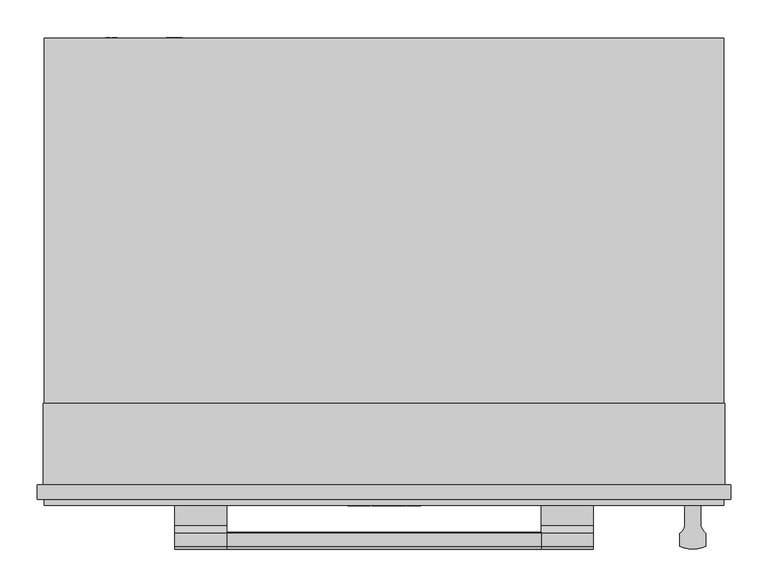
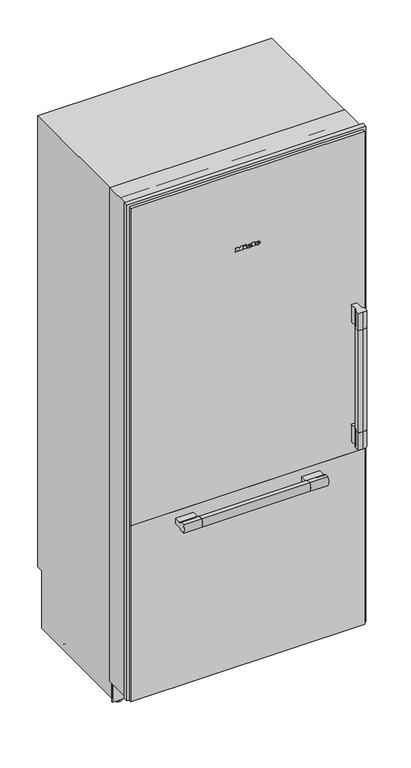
"""IFC4 building model written with IfcOpenShell, lengths in millimetres: proxy geometry, 11502970_USA_KF2912SF : 38291211_USA_11502970_KF2912SF."""

from ifc_helpers import new_model, si_unit, point, frame, frame_2d, origin, place, context, project, spatial, polyline, circle_curve, ellipse_curve, trimmed, segment, composite_curve, outline, extrude, faceted_brep, source, transform, mapped, element, save
from ifc_brep_helpers import plane_surface, cylinder_surface, revolved_surface, extruded_surface, advanced_brep


def specialty_equipment_9384840f(model_context):
    return source(origin(), model_context, "Body", "SolidModel", [
        extrude(outline(polyline([(247.0, -94.0), (205.0, -94.0), (205.0, -79.5), (90.0, -79.5), (90.0, -66.5), (205.0, -66.5), (205.0, -52.0), (247.0, -52.0), (247.0, -94.0)])), frame((0.0, 21.0, 0.0), z_axis=(0.0, 1.0, 0.0), x_axis=(0.0, 0.0, 1.0)), (0.0, 0.0, 1.0), 54.0),
        extrude(outline(polyline([(-443.0, 68.0), (443.0, 68.0), (443.0, 21.0), (-443.0, 21.0), (-443.0, 68.0)])), frame((0.0, 0.0, 883.0), z_axis=(0.0, 0.0, 1.0), x_axis=(1.0, 0.0, 0.0)), (0.0, 0.0, 1.0), 1153.0),
        extrude(outline(polyline([(-449.5, 68.0), (449.5, 68.0), (449.5, 21.0), (-449.5, 21.0), (-449.5, 68.0)])), frame((0.0, 0.0, 247.0), z_axis=(0.0, 0.0, 1.0), x_axis=(1.0, 0.0, 0.0)), (0.0, 0.0, 1.0), 562.0),
        extrude(outline(polyline([(-289.0, 50.0), (289.0, 50.0), (289.0, 21.0), (-289.0, 21.0), (-289.0, 50.0)])), frame((0.0, 0.0, 2036.0), z_axis=(0.0, 0.0, 1.0), x_axis=(1.0, 0.0, 0.0)), (0.0, 0.0, 1.0), 56.0),
        extrude(outline(composite_curve([segment(trimmed(circle_curve(frame_2d((386.9285714, -24.4390599)), 15.5714286), [point((395.5, -37.4390599))], [point((402.5, -24.4390599))], True, "CARTESIAN"), True, "CONTINUOUS"), segment(polyline([(402.5, -24.4390599), (402.5, 0.0), (423.5, 0.0), (423.5, -24.4390599)]), True, "CONTINUOUS"), segment(trimmed(circle_curve(frame_2d((439.0714286, -24.4390599)), 15.5714286), [point((423.5, -24.4390599))], [point((430.5, -37.4390599))], True, "CARTESIAN"), True, "CONTINUOUS"), segment(polyline([(430.5, -37.4390599), (430.5, -55.0)]), True, "CONTINUOUS"), segment(trimmed(circle_curve(frame_2d((413.0, -18.71875)), 40.28125), [point((430.5, -55.0))], [point((413.0, -59.0))], False, "CARTESIAN"), True, "CONTINUOUS"), segment(trimmed(circle_curve(frame_2d((413.0, -18.71875)), 40.28125), [point((413.0, -59.0))], [point((395.5, -55.0))], False, "CARTESIAN"), True, "CONTINUOUS"), segment(polyline([(395.5, -55.0), (395.5, -37.4390599)]), True, "CONTINUOUS")], self_intersect=False)), frame((0.0, 0.0, 858.0), z_axis=(0.0, 0.0, 1.0), x_axis=(1.0, 0.0, 0.0)), (0.0, 0.0, 1.0), 70.0),
        extrude(outline(composite_curve([segment(trimmed(circle_curve(frame_2d((386.9285714, -24.4390599)), 15.5714286), [point((395.5, -37.4390599))], [point((402.5, -24.4390599))], True, "CARTESIAN"), True, "CONTINUOUS"), segment(polyline([(402.5, -24.4390599), (402.5, 0.0), (423.5, 0.0), (423.5, -24.4390599)]), True, "CONTINUOUS"), segment(trimmed(circle_curve(frame_2d((439.0714286, -24.4390599)), 15.5714286), [point((423.5, -24.4390599))], [point((430.5, -37.4390599))], True, "CARTESIAN"), True, "CONTINUOUS"), segment(polyline([(430.5, -37.4390599), (430.5, -55.0)]), True, "CONTINUOUS"), segment(trimmed(circle_curve(frame_2d((413.0, -18.71875)), 40.28125), [point((430.5, -55.0))], [point((413.0, -59.0))], False, "CARTESIAN"), True, "CONTINUOUS"), segment(trimmed(circle_curve(frame_2d((413.0, -18.71875)), 40.28125), [point((413.0, -59.0))], [point((395.5, -55.0))], False, "CARTESIAN"), True, "CONTINUOUS"), segment(polyline([(395.5, -55.0), (395.5, -37.4390599)]), True, "CONTINUOUS")], self_intersect=False)), frame((0.0, 0.0, 1348.0), z_axis=(0.0, 0.0, 1.0), x_axis=(1.0, 0.0, 0.0)), (0.0, 0.0, 1.0), 70.0),
        extrude(outline(polyline([(-454.0, 21.0), (454.0, 21.0), (454.0, 0.0), (-454.0, 0.0), (-454.0, 21.0)])), frame((0.0, 0.0, 812.0), z_axis=(0.0, 0.0, 1.0), x_axis=(1.0, 0.0, 0.0)), (0.0, 0.0, 1.0), 1299.0),
        extrude(outline(composite_curve([segment(trimmed(circle_curve(frame_2d((386.9285714, -24.4390599)), 15.5714286), [point((395.5, -37.4390599))], [point((397.3599688, -36.0))], True, "CARTESIAN"), True, "CONTINUOUS"), segment(polyline([(397.3599688, -36.0), (428.6400312, -36.0)]), True, "CONTINUOUS"), segment(trimmed(circle_curve(frame_2d((439.0714286, -24.4390599)), 15.5714286), [point((428.6400312, -36.0))], [point((430.5, -37.4390599))], True, "CARTESIAN"), True, "CONTINUOUS"), segment(polyline([(430.5, -37.4390599), (430.5, -55.0)]), True, "CONTINUOUS"), segment(trimmed(circle_curve(frame_2d((413.0, -18.71875)), 40.28125), [point((430.5, -55.0))], [point((413.0, -59.0))], False, "CARTESIAN"), True, "CONTINUOUS"), segment(trimmed(circle_curve(frame_2d((413.0, -18.71875)), 40.28125), [point((413.0, -59.0))], [point((395.5, -55.0))], False, "CARTESIAN"), True, "CONTINUOUS"), segment(polyline([(395.5, -55.0), (395.5, -37.4390599)]), True, "CONTINUOUS")], self_intersect=False)), frame((0.0, 0.0, 928.0), z_axis=(0.0, 0.0, 1.0), x_axis=(1.0, 0.0, 0.0)), (0.0, 0.0, 1.0), 420.0),
        advanced_brep(
        [(-210.0, -37.692095, 787.5), (-210.0, -55.0, 787.5), (-210.0, -59.0, 770.0), (-210.0, -55.0, 752.5), (-210.0, -37.692095, 752.5), (-210.0, -27.0, 759.5), (-210.0, 0.0, 759.5), (-210.0, 0.0, 780.5), (-210.0, -27.0, 780.5), (-280.0, 0.0, 780.5), (-280.0, 0.0, 759.5), (-280.0, -27.0, 759.5), (-280.0, -37.692095, 752.5), (-280.0, -55.0, 752.5), (-280.0, -59.0, 770.0), (-280.0, -55.0, 787.5), (-280.0, -37.692095, 787.5), (-280.0, -27.0, 780.5)],
        [
            (0, 1),
            (1, 2, circle_curve(frame((-210.0, -18.71875, 770.0), z_axis=(1.0, 0.0, 0.0), x_axis=(0.0, 0.0, 1.0)), 40.28125)),
            (2, 3, circle_curve(frame((-210.0, -18.71875, 770.0), z_axis=(1.0, 0.0, 0.0), x_axis=(0.0, 0.0, 1.0)), 40.28125)),
            (3, 4),
            (4, 5, circle_curve(frame((-210.0, -27.0, 747.8342217), z_axis=(-1.0, 0.0, 0.0), x_axis=(0.0, 0.0, 1.0)), 11.6657783)),
            (5, 6),
            (6, 7),
            (7, 8),
            (8, 0, circle_curve(frame((-210.0, -27.0, 792.1657783), z_axis=(-1.0, 0.0, 0.0), x_axis=(0.0, 0.0, 1.0)), 11.6657783)),
            (9, 10),
            (10, 11),
            (11, 12, circle_curve(frame((-280.0, -27.0, 747.8342217), z_axis=(1.0, 0.0, 0.0), x_axis=(0.0, 0.0, 1.0)), 11.6657783)),
            (12, 13),
            (13, 14, circle_curve(frame((-280.0, -18.71875, 770.0), z_axis=(-1.0, 0.0, 0.0), x_axis=(0.0, 0.0, 1.0)), 40.28125)),
            (14, 15, circle_curve(frame((-280.0, -18.71875, 770.0), z_axis=(-1.0, 0.0, 0.0), x_axis=(0.0, 0.0, 1.0)), 40.28125)),
            (15, 16),
            (16, 17, circle_curve(frame((-280.0, -27.0, 792.1657783), z_axis=(1.0, 0.0, 0.0), x_axis=(0.0, 0.0, 1.0)), 11.6657783)),
            (17, 9),
            (0, 16),
            (15, 1),
            (3, 13),
            (12, 4),
            (6, 10),
            (9, 7),
            (17, 8),
            (5, 11),
        ],
        [
            plane_surface(frame((-210.0, -59.0, 787.5), z_axis=(1.0, 0.0, 0.0), x_axis=(0.0, -1.0, 0.0))),
            plane_surface(frame((-280.0, -59.0, 787.5), z_axis=(-1.0, 0.0, 0.0), x_axis=(0.0, 1.0, 0.0))),
            plane_surface(frame((-210.0, 0.0, 787.5), z_axis=(0.0, 0.0, 1.0), x_axis=(-1.0, 0.0, 0.0))),
            plane_surface(frame((-210.0, -59.0, 752.5), z_axis=(0.0, 0.0, -1.0), x_axis=(-1.0, 0.0, 0.0))),
            plane_surface(frame((-210.0, 0.0, 752.5), z_axis=(0.0, 1.0, 0.0), x_axis=(-1.0, 0.0, 0.0))),
            plane_surface(frame((280.0, -27.0, 780.5), z_axis=(0.0, 0.0, 1.0), x_axis=(-1.0, 0.0, 0.0))),
            plane_surface(frame((280.0, 0.0, 759.5), z_axis=(0.0, 0.0, -1.0), x_axis=(-1.0, 0.0, 0.0))),
            revolved_surface(polyline([(-210.0, -27.0, 759.5), (-280.0, -27.0, 759.5)]), (-280.0, -27.0, 747.8342217), (1.0, 0.0, 0.0)),
            cylinder_surface(frame((-280.0, -18.71875, 770.0), z_axis=(-1.0, 0.0, 0.0), x_axis=(0.0, 0.0, 1.0)), 40.28125),
            revolved_surface(polyline([(-210.0, -27.0, 803.8315566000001), (-280.0, -27.0, 803.8315566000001)]), (-280.0, -27.0, 792.1657783), (1.0, 0.0, 0.0)),
        ],
        [
            (0, [[1, 2, 3, 4, 5, 6, 7, 8, 9]]),
            (1, [[10, 11, 12, 13, 14, 15, 16, 17, 18]]),
            (2, [[-1, 19, -16, 20]]),
            (3, [[-4, 21, -13, 22]]),
            (4, [[-7, 23, -10, 24]]),
            (5, [[25, -8, -24, -18]]),
            (6, [[26, -11, -23, -6]]),
            (7, [[-26, -5, -22, -12]]),
            (8, [[-2, -20, -15, -14, -21, -3]]),
            (9, [[-25, -17, -19, -9]]),
        ],
    ),
        advanced_brep(
        [(210.0, -37.692095, 787.5), (210.0, -55.0, 787.5), (210.0, -59.0, 770.0), (210.0, -55.0, 752.5), (210.0, -37.692095, 752.5), (210.0, -36.0, 755.2565113), (210.0, -36.0, 784.7434887), (-210.0, -37.692095, 752.5), (-210.0, -55.0, 752.5), (-210.0, -59.0, 770.0), (-210.0, -55.0, 787.5), (-210.0, -37.692095, 787.5), (-210.0, -36.0, 784.7434887), (-210.0, -36.0, 755.2565113)],
        [
            (0, 1),
            (1, 2, circle_curve(frame((210.0, -18.71875, 770.0), z_axis=(1.0, 0.0, 0.0), x_axis=(0.0, 0.0, 1.0)), 40.28125)),
            (2, 3, circle_curve(frame((210.0, -18.71875, 770.0), z_axis=(1.0, 0.0, 0.0), x_axis=(0.0, 0.0, 1.0)), 40.28125)),
            (3, 4),
            (4, 5, circle_curve(frame((210.0, -27.0, 747.8342217), z_axis=(-1.0, 0.0, 0.0), x_axis=(0.0, 0.0, 1.0)), 11.6657783)),
            (5, 6),
            (6, 0, circle_curve(frame((210.0, -27.0, 792.1657783), z_axis=(-1.0, 0.0, 0.0), x_axis=(0.0, 0.0, 1.0)), 11.6657783)),
            (7, 8),
            (8, 9, circle_curve(frame((-210.0, -18.71875, 770.0), z_axis=(-1.0, 0.0, 0.0), x_axis=(0.0, 0.0, 1.0)), 40.28125)),
            (9, 10, circle_curve(frame((-210.0, -18.71875, 770.0), z_axis=(-1.0, 0.0, 0.0), x_axis=(0.0, 0.0, 1.0)), 40.28125)),
            (10, 11),
            (11, 12, circle_curve(frame((-210.0, -27.0, 792.1657783), z_axis=(1.0, 0.0, 0.0), x_axis=(0.0, 0.0, 1.0)), 11.6657783)),
            (12, 13),
            (13, 7, circle_curve(frame((-210.0, -27.0, 747.8342217), z_axis=(1.0, 0.0, 0.0), x_axis=(0.0, 0.0, 1.0)), 11.6657783)),
            (0, 11),
            (10, 1),
            (3, 8),
            (7, 4),
            (13, 5),
            (6, 12),
        ],
        [
            plane_surface(frame((210.0, -59.0, 787.5), z_axis=(1.0, 0.0, 0.0), x_axis=(0.0, -1.0, 0.0))),
            plane_surface(frame((-210.0, -59.0, 787.5), z_axis=(-1.0, 0.0, 0.0), x_axis=(0.0, 1.0, 0.0))),
            plane_surface(frame((210.0, 0.0, 787.5), z_axis=(0.0, 0.0, 1.0), x_axis=(-1.0, 0.0, 0.0))),
            plane_surface(frame((210.0, -59.0, 752.5), z_axis=(0.0, 0.0, -1.0), x_axis=(-1.0, 0.0, 0.0))),
            revolved_surface(polyline([(210.0, -27.0, 759.5), (-210.0, -27.0, 759.5)]), (-280.0, -27.0, 747.8342217), (1.0, 0.0, 0.0)),
            cylinder_surface(frame((-280.0, -18.71875, 770.0), z_axis=(-1.0, 0.0, 0.0), x_axis=(0.0, 0.0, 1.0)), 40.28125),
            revolved_surface(polyline([(210.0, -27.0, 803.8315566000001), (-210.0, -27.0, 803.8315566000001)]), (-280.0, -27.0, 792.1657783), (1.0, 0.0, 0.0)),
            plane_surface(frame((210.0, -36.0, 788.0), z_axis=(0.0, 1.0, 0.0), x_axis=(-1.0, 0.0, 0.0))),
        ],
        [
            (0, [[1, 2, 3, 4, 5, 6, 7]]),
            (1, [[8, 9, 10, 11, 12, 13, 14]]),
            (2, [[-1, 15, -11, 16]]),
            (3, [[-4, 17, -8, 18]]),
            (4, [[-18, -14, 19, -5]]),
            (5, [[-2, -16, -10, -9, -17, -3]]),
            (6, [[-15, -7, 20, -12]]),
            (7, [[-6, -19, -13, -20]]),
        ],
    ),
        advanced_brep(
        [(280.0, -37.692095, 787.5), (280.0, -55.0, 787.5), (280.0, -59.0, 770.0), (280.0, -55.0, 752.5), (280.0, -37.692095, 752.5), (280.0, -27.0, 759.5), (280.0, 0.0, 759.5), (280.0, 0.0, 780.5), (280.0, -27.0, 780.5), (210.0, 0.0, 780.5), (210.0, 0.0, 759.5), (210.0, -27.0, 759.5), (210.0, -37.692095, 752.5), (210.0, -55.0, 752.5), (210.0, -59.0, 770.0), (210.0, -55.0, 787.5), (210.0, -37.692095, 787.5), (210.0, -27.0, 780.5)],
        [
            (0, 1),
            (1, 2, circle_curve(frame((280.0, -18.71875, 770.0), z_axis=(1.0, 0.0, 0.0), x_axis=(0.0, 0.0, 1.0)), 40.28125)),
            (2, 3, circle_curve(frame((280.0, -18.71875, 770.0), z_axis=(1.0, 0.0, 0.0), x_axis=(0.0, 0.0, 1.0)), 40.28125)),
            (3, 4),
            (4, 5, circle_curve(frame((280.0, -27.0, 747.8342217), z_axis=(-1.0, 0.0, 0.0), x_axis=(0.0, 0.0, 1.0)), 11.6657783)),
            (5, 6),
            (6, 7),
            (7, 8),
            (8, 0, circle_curve(frame((280.0, -27.0, 792.1657783), z_axis=(-1.0, 0.0, 0.0), x_axis=(0.0, 0.0, 1.0)), 11.6657783)),
            (9, 10),
            (10, 11),
            (11, 12, circle_curve(frame((210.0, -27.0, 747.8342217), z_axis=(1.0, 0.0, 0.0), x_axis=(0.0, 0.0, 1.0)), 11.6657783)),
            (12, 13),
            (13, 14, circle_curve(frame((210.0, -18.71875, 770.0), z_axis=(-1.0, 0.0, 0.0), x_axis=(0.0, 0.0, 1.0)), 40.28125)),
            (14, 15, circle_curve(frame((210.0, -18.71875, 770.0), z_axis=(-1.0, 0.0, 0.0), x_axis=(0.0, 0.0, 1.0)), 40.28125)),
            (15, 16),
            (16, 17, circle_curve(frame((210.0, -27.0, 792.1657783), z_axis=(1.0, 0.0, 0.0), x_axis=(0.0, 0.0, 1.0)), 11.6657783)),
            (17, 9),
            (0, 16),
            (15, 1),
            (3, 13),
            (12, 4),
            (6, 10),
            (9, 7),
            (17, 8),
            (5, 11),
        ],
        [
            plane_surface(frame((280.0, -59.0, 787.5), z_axis=(1.0, 0.0, 0.0), x_axis=(0.0, -1.0, 0.0))),
            plane_surface(frame((210.0, -59.0, 787.5), z_axis=(-1.0, 0.0, 0.0), x_axis=(0.0, 1.0, 0.0))),
            plane_surface(frame((280.0, 0.0, 787.5), z_axis=(0.0, 0.0, 1.0), x_axis=(-1.0, 0.0, 0.0))),
            plane_surface(frame((280.0, -59.0, 752.5), z_axis=(0.0, 0.0, -1.0), x_axis=(-1.0, 0.0, 0.0))),
            plane_surface(frame((280.0, 0.0, 752.5), z_axis=(0.0, 1.0, 0.0), x_axis=(-1.0, 0.0, 0.0))),
            plane_surface(frame((280.0, -27.0, 780.5), z_axis=(0.0, 0.0, 1.0), x_axis=(-1.0, 0.0, 0.0))),
            plane_surface(frame((280.0, 0.0, 759.5), z_axis=(0.0, 0.0, -1.0), x_axis=(-1.0, 0.0, 0.0))),
            revolved_surface(polyline([(280.0, -27.0, 759.5), (210.0, -27.0, 759.5)]), (-280.0, -27.0, 747.8342217), (1.0, 0.0, 0.0)),
            cylinder_surface(frame((-280.0, -18.71875, 770.0), z_axis=(-1.0, 0.0, 0.0), x_axis=(0.0, 0.0, 1.0)), 40.28125),
            revolved_surface(polyline([(280.0, -27.0, 803.8315566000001), (210.0, -27.0, 803.8315566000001)]), (-280.0, -27.0, 792.1657783), (1.0, 0.0, 0.0)),
        ],
        [
            (0, [[1, 2, 3, 4, 5, 6, 7, 8, 9]]),
            (1, [[10, 11, 12, 13, 14, 15, 16, 17, 18]]),
            (2, [[-1, 19, -16, 20]]),
            (3, [[-4, 21, -13, 22]]),
            (4, [[-7, 23, -10, 24]]),
            (5, [[25, -8, -24, -18]]),
            (6, [[26, -11, -23, -6]]),
            (7, [[-26, -5, -22, -12]]),
            (8, [[-2, -20, -15, -14, -21, -3]]),
            (9, [[-25, -17, -19, -9]]),
        ],
    ),
        extrude(outline(polyline([(-454.0, 21.0), (454.0, 21.0), (454.0, 0.0), (-454.0, 0.0), (-454.0, 21.0)])), frame((0.0, 0.0, 90.0), z_axis=(0.0, 0.0, 1.0), x_axis=(1.0, 0.0, 0.0)), (0.0, 0.0, 1.0), 721.0),
        advanced_brep(
        [(38.22, -1.0, 1795.792), (38.22, -1.0, 1797.408), (48.924, -1.0, 1797.408), (30.3, -1.0, 1797.408), (34.7, -1.0, 1792.0), (48.652, -1.0, 1795.792), (43.82, -1.0, 1795.792), (40.012, -1.0, 1794.0), (38.22, -1.0, 1799.456), (38.22, -1.0, 1801.2), (40.956, -1.0, 1801.2), (40.956, -1.0, 1799.456), (38.22, 0.0, 1795.792), (40.012, 0.0, 1794.0), (43.82, 0.0, 1795.792), (48.652, 0.0, 1795.792), (34.7, 0.0, 1792.0), (30.3, 0.0, 1797.408), (48.924, 0.0, 1797.408), (38.22, 0.0, 1797.408), (38.22, 0.0, 1799.456), (40.956, 0.0, 1799.456), (40.956, 0.0, 1801.2), (38.22, 0.0, 1801.2)],
        [
            (0, 1),
            (1, 2),
            (2, 3, ellipse_curve(frame((39.612, -1.0, 1797.408), z_axis=(0.0, -1.0, 0.0), x_axis=(-1.0, 0.0, 0.0)), 9.312, 7.696)),
            (3, 4, circle_curve(frame((36.4920873, -1.0, 1797.952), z_axis=(0.0, -1.0, 0.0), x_axis=(0.0, 0.0, -1.0)), 6.2159376)),
            (4, 5, circle_curve(frame((39.4255872, -1.0, 1802.176), z_axis=(0.0, -1.0, 0.0), x_axis=(0.0, 0.0, -1.0)), 11.2197215)),
            (5, 6),
            (6, 7, circle_curve(frame((40.7941176, -1.0, 1797.28), z_axis=(0.0, 1.0, 0.0), x_axis=(0.0, 0.0, -1.0)), 3.3719591)),
            (7, 0, circle_curve(frame((40.012, -1.0, 1795.792), z_axis=(0.0, 1.0, 0.0), x_axis=(0.0, 0.0, -1.0)), 1.792)),
            (8, 9),
            (9, 10, circle_curve(frame((39.588, -1.0, 1801.2), z_axis=(0.0, 1.0, 0.0), x_axis=(0.0, 0.0, -1.0)), 1.368)),
            (10, 11),
            (11, 8),
            (12, 13, circle_curve(frame((40.012, 0.0, 1795.792), z_axis=(0.0, -1.0, 0.0), x_axis=(0.0, 0.0, -1.0)), 1.792)),
            (13, 14, circle_curve(frame((40.7941176, 0.0, 1797.28), z_axis=(0.0, -1.0, 0.0), x_axis=(0.0, 0.0, -1.0)), 3.3719591)),
            (14, 15),
            (15, 16, circle_curve(frame((39.4255872, 0.0, 1802.176), z_axis=(0.0, 1.0, 0.0), x_axis=(0.0, 0.0, -1.0)), 11.2197215)),
            (16, 17, circle_curve(frame((36.4920873, 0.0, 1797.952), z_axis=(0.0, 1.0, 0.0), x_axis=(0.0, 0.0, -1.0)), 6.2159376)),
            (17, 18, ellipse_curve(frame((39.612, 0.0, 1797.408), z_axis=(0.0, 1.0, 0.0), x_axis=(-1.0, 0.0, 0.0)), 9.312, 7.696)),
            (18, 19),
            (19, 12),
            (20, 21),
            (21, 22),
            (22, 23, circle_curve(frame((39.588, 0.0, 1801.2), z_axis=(0.0, -1.0, 0.0), x_axis=(0.0, 0.0, -1.0)), 1.368)),
            (23, 20),
            (0, 12),
            (19, 1),
            (18, 2),
            (5, 15),
            (14, 6),
            (17, 3),
            (13, 7),
            (16, 4),
            (8, 20),
            (23, 9),
            (22, 10),
            (21, 11),
        ],
        [
            plane_surface(frame((38.22, -1.0, 1797.408), z_axis=(0.0, -1.0, 0.0), x_axis=(0.0, 0.0, 1.0))),
            plane_surface(frame((38.22, 0.0, 1797.408), z_axis=(0.0, 1.0, 0.0), x_axis=(0.0, 0.0, -1.0))),
            plane_surface(frame((38.22, -1.0, 1795.792), z_axis=(1.0, 0.0, 0.0), x_axis=(0.0, 1.0, 0.0))),
            plane_surface(frame((38.22, -1.0, 1797.408), z_axis=(0.0, 0.0, -1.0), x_axis=(0.0, 1.0, 0.0))),
            plane_surface(frame((48.652, -1.0, 1795.792), z_axis=(0.0, 0.0, 1.0), x_axis=(0.0, 1.0, 0.0))),
            extruded_surface(trimmed(ellipse_curve(frame((39.612, 1.0, 1797.408), z_axis=(0.0, -1.0, 0.0), x_axis=(-1.0, 0.0, 0.0)), 9.312, 7.696), [point((48.924, 1.0, 1797.408))], [point((30.3, 1.0, 1797.408))], True, "CARTESIAN"), (0.0, -1.0, 0.0), 1.0),
            revolved_surface(polyline([(40.7941176, 0.0, 1793.9080409), (40.7941176, -1.0, 1793.9080409)]), (40.7941176, 0.0, 1797.28), (0.0, 1.0, 0.0)),
            revolved_surface(polyline([(40.012, 0.0, 1794.0), (40.012, -1.0, 1794.0)]), (40.012, 0.0, 1795.792), (0.0, 1.0, 0.0)),
            cylinder_surface(frame((36.4920873, 0.0, 1797.952), z_axis=(0.0, -1.0, 0.0), x_axis=(0.0, 0.0, -1.0)), 6.2159376),
            cylinder_surface(frame((39.4255872, 0.0, 1802.176), z_axis=(0.0, -1.0, 0.0), x_axis=(0.0, 0.0, -1.0)), 11.2197215),
            plane_surface(frame((38.22, -1.0, 1799.456), z_axis=(1.0, 0.0, 0.0), x_axis=(0.0, 1.0, 0.0))),
            revolved_surface(polyline([(39.588, 0.0, 1799.832), (39.588, -1.0, 1799.832)]), (39.588, 0.0, 1801.2), (0.0, 1.0, 0.0)),
            plane_surface(frame((40.956, -1.0, 1801.2), z_axis=(-1.0, 0.0, 0.0), x_axis=(0.0, 1.0, 0.0))),
            plane_surface(frame((40.956, -1.0, 1799.456), z_axis=(0.0, 0.0, 1.0), x_axis=(0.0, 1.0, 0.0))),
        ],
        [
            (0, [[1, 2, 3, 4, 5, 6, 7, 8], [9, 10, 11, 12]]),
            (1, [[13, 14, 15, 16, 17, 18, 19, 20], [21, 22, 23, 24]]),
            (2, [[-1, 25, -20, 26]]),
            (3, [[-2, -26, -19, 27]]),
            (4, [[-6, 28, -15, 29]]),
            (5, [[-3, -27, -18, 30]]),
            (6, [[-7, -29, -14, 31]]),
            (7, [[-8, -31, -13, -25]]),
            (8, [[-4, -30, -17, 32]]),
            (9, [[-5, -32, -16, -28]]),
            (10, [[-9, 33, -24, 34]]),
            (11, [[-10, -34, -23, 35]]),
            (12, [[-11, -35, -22, 36]]),
            (13, [[-12, -36, -21, -33]]),
        ],
    ),
        advanced_brep(
        [(4.828, -1.0, 1795.792), (4.828, -1.0, 1797.408), (15.532, -1.0, 1797.408), (-3.092, -1.0, 1797.408), (1.308, -1.0, 1792.0), (15.26, -1.0, 1795.792), (10.428, -1.0, 1795.792), (6.62, -1.0, 1794.0), (4.828, -1.0, 1799.456), (4.828, -1.0, 1801.2), (7.564, -1.0, 1801.2), (7.564, -1.0, 1799.456), (4.828, 0.0, 1795.792), (6.62, 0.0, 1794.0), (10.428, 0.0, 1795.792), (15.26, 0.0, 1795.792), (1.308, 0.0, 1792.0), (-3.092, 0.0, 1797.408), (15.532, 0.0, 1797.408), (4.828, 0.0, 1797.408), (4.828, 0.0, 1799.456), (7.564, 0.0, 1799.456), (7.564, 0.0, 1801.2), (4.828, 0.0, 1801.2)],
        [
            (0, 1),
            (1, 2),
            (2, 3, ellipse_curve(frame((6.22, -1.0, 1797.408), z_axis=(0.0, -1.0, 0.0), x_axis=(-1.0, 0.0, 0.0)), 9.312, 7.696)),
            (3, 4, circle_curve(frame((3.1000873, -1.0, 1797.952), z_axis=(0.0, -1.0, 0.0), x_axis=(0.0, 0.0, -1.0)), 6.2159376)),
            (4, 5, circle_curve(frame((6.0335872, -1.0, 1802.176), z_axis=(0.0, -1.0, 0.0), x_axis=(0.0, 0.0, -1.0)), 11.2197215)),
            (5, 6),
            (6, 7, circle_curve(frame((7.4021176, -1.0, 1797.28), z_axis=(0.0, 1.0, 0.0), x_axis=(0.0, 0.0, -1.0)), 3.3719591)),
            (7, 0, circle_curve(frame((6.62, -1.0, 1795.792), z_axis=(0.0, 1.0, 0.0), x_axis=(0.0, 0.0, -1.0)), 1.792)),
            (8, 9),
            (9, 10, circle_curve(frame((6.196, -1.0, 1801.2), z_axis=(0.0, 1.0, 0.0), x_axis=(0.0, 0.0, -1.0)), 1.368)),
            (10, 11),
            (11, 8),
            (12, 13, circle_curve(frame((6.62, 0.0, 1795.792), z_axis=(0.0, -1.0, 0.0), x_axis=(0.0, 0.0, -1.0)), 1.792)),
            (13, 14, circle_curve(frame((7.4021176, 0.0, 1797.28), z_axis=(0.0, -1.0, 0.0), x_axis=(0.0, 0.0, -1.0)), 3.3719591)),
            (14, 15),
            (15, 16, circle_curve(frame((6.0335872, 0.0, 1802.176), z_axis=(0.0, 1.0, 0.0), x_axis=(0.0, 0.0, -1.0)), 11.2197215)),
            (16, 17, circle_curve(frame((3.1000873, 0.0, 1797.952), z_axis=(0.0, 1.0, 0.0), x_axis=(0.0, 0.0, -1.0)), 6.2159376)),
            (17, 18, ellipse_curve(frame((6.22, 0.0, 1797.408), z_axis=(0.0, 1.0, 0.0), x_axis=(-1.0, 0.0, 0.0)), 9.312, 7.696)),
            (18, 19),
            (19, 12),
            (20, 21),
            (21, 22),
            (22, 23, circle_curve(frame((6.196, 0.0, 1801.2), z_axis=(0.0, -1.0, 0.0), x_axis=(0.0, 0.0, -1.0)), 1.368)),
            (23, 20),
            (0, 12),
            (19, 1),
            (18, 2),
            (5, 15),
            (14, 6),
            (17, 3),
            (13, 7),
            (16, 4),
            (8, 20),
            (23, 9),
            (22, 10),
            (21, 11),
        ],
        [
            plane_surface(frame((4.828, -1.0, 1797.408), z_axis=(0.0, -1.0, 0.0), x_axis=(0.0, 0.0, 1.0))),
            plane_surface(frame((4.828, 0.0, 1797.408), z_axis=(0.0, 1.0, 0.0), x_axis=(0.0, 0.0, -1.0))),
            plane_surface(frame((4.828, -1.0, 1795.792), z_axis=(1.0, 0.0, 0.0), x_axis=(0.0, 1.0, 0.0))),
            plane_surface(frame((4.828, -1.0, 1797.408), z_axis=(0.0, 0.0, -1.0), x_axis=(0.0, 1.0, 0.0))),
            plane_surface(frame((15.26, -1.0, 1795.792), z_axis=(0.0, 0.0, 1.0), x_axis=(0.0, 1.0, 0.0))),
            extruded_surface(trimmed(ellipse_curve(frame((6.22, 1.0, 1797.408), z_axis=(0.0, -1.0, 0.0), x_axis=(-1.0, 0.0, 0.0)), 9.312, 7.696), [point((15.532, 1.0, 1797.408))], [point((-3.092, 1.0, 1797.408))], True, "CARTESIAN"), (0.0, -1.0, 0.0), 1.0),
            revolved_surface(polyline([(7.4021176, 0.0, 1793.9080409), (7.4021176, -1.0, 1793.9080409)]), (7.4021176, 0.0, 1797.28), (0.0, 1.0, 0.0)),
            revolved_surface(polyline([(6.62, 0.0, 1794.0), (6.62, -1.0, 1794.0)]), (6.62, 0.0, 1795.792), (0.0, 1.0, 0.0)),
            cylinder_surface(frame((3.1000873, 0.0, 1797.952), z_axis=(0.0, -1.0, 0.0), x_axis=(0.0, 0.0, -1.0)), 6.2159376),
            cylinder_surface(frame((6.0335872, 0.0, 1802.176), z_axis=(0.0, -1.0, 0.0), x_axis=(0.0, 0.0, -1.0)), 11.2197215),
            plane_surface(frame((4.828, -1.0, 1799.456), z_axis=(1.0, 0.0, 0.0), x_axis=(0.0, 1.0, 0.0))),
            revolved_surface(polyline([(6.196, 0.0, 1799.832), (6.196, -1.0, 1799.832)]), (6.196, 0.0, 1801.2), (0.0, 1.0, 0.0)),
            plane_surface(frame((7.564, -1.0, 1801.2), z_axis=(-1.0, 0.0, 0.0), x_axis=(0.0, 1.0, 0.0))),
            plane_surface(frame((7.564, -1.0, 1799.456), z_axis=(0.0, 0.0, 1.0), x_axis=(0.0, 1.0, 0.0))),
        ],
        [
            (0, [[1, 2, 3, 4, 5, 6, 7, 8], [9, 10, 11, 12]]),
            (1, [[13, 14, 15, 16, 17, 18, 19, 20], [21, 22, 23, 24]]),
            (2, [[-1, 25, -20, 26]]),
            (3, [[-2, -26, -19, 27]]),
            (4, [[-6, 28, -15, 29]]),
            (5, [[-3, -27, -18, 30]]),
            (6, [[-7, -29, -14, 31]]),
            (7, [[-8, -31, -13, -25]]),
            (8, [[-4, -30, -17, 32]]),
            (9, [[-5, -32, -16, -28]]),
            (10, [[-9, 33, -24, 34]]),
            (11, [[-10, -34, -23, 35]]),
            (12, [[-11, -35, -22, 36]]),
            (13, [[-12, -36, -21, -33]]),
        ],
    ),
        extrude(outline(polyline([(1807.056, -12.66), (1804.464, -11.444), (1806.992, -6.02), (1809.584, -7.22), (1807.056, -12.66)])), frame((0.0, -1.0, 0.0), z_axis=(0.0, 1.0, 0.0), x_axis=(0.0, 0.0, 1.0)), (0.0, 0.0, 1.0), 1.0),
        extrude(outline(polyline([(1804.112, -16.612), (1801.248, -16.612), (1801.248, -14.708), (1794.688, -14.708), (1794.688, -16.612), (1792.0, -16.612), (1792.0, -3.988), (1794.688, -3.988), (1794.688, -5.844), (1804.112, -5.844), (1804.112, -16.612)])), frame((0.0, -1.0, 0.0), z_axis=(0.0, 1.0, 0.0), x_axis=(0.0, 0.0, 1.0)), (0.0, 0.0, 1.0), 1.0),
        extrude(outline(polyline([(1805.392, 16.428), (1805.392, 18.348), (1794.688, 18.348), (1794.688, 16.428), (1792.0, 16.428), (1792.0, 29.404), (1794.688, 29.404), (1794.688, 27.436), (1808.0, 27.436), (1808.0, 16.428), (1805.392, 16.428)])), frame((0.0, -1.0, 0.0), z_axis=(0.0, 1.0, 0.0), x_axis=(0.0, 0.0, 1.0)), (0.0, 0.0, 1.0), 1.0),
        extrude(outline(polyline([(1805.392, -48.5), (1805.392, -46.564), (1794.688, -46.564), (1794.688, -48.5), (1792.0, -48.5), (1792.0, -41.46), (1794.688, -41.46), (1794.688, -43.38), (1801.4431247, -43.38), (1792.0, -36.228), (1801.8152223, -29.044), (1794.688, -29.044), (1794.688, -31.012), (1792.0, -31.012), (1792.0, -18.244), (1794.688, -18.244), (1794.688, -20.276), (1805.392, -20.276), (1805.392, -18.244), (1808.0, -18.244), (1808.0, -27.988), (1802.0, -32.66), (1808.0, -37.348), (1808.0, -48.5), (1805.392, -48.5)])), frame((0.0, -1.0, 0.0), z_axis=(0.0, 1.0, 0.0), x_axis=(0.0, 0.0, 1.0)), (0.0, 0.0, 1.0), 1.0),
        extrude(outline(polyline([(201.5, 1973.4), (238.625, 1914.0), (237.4457524, 1914.0), (200.3207524, 1973.4), (201.5, 1973.4)])), frame((-69.0, 0.0, 0.0), z_axis=(1.0, 0.0, 0.0), x_axis=(0.0, 1.0, 0.0)), (0.0, 0.0, 1.0), 138.0),
        extrude(outline(polyline([(565.0, 1998.0), (565.0, 1796.0), (495.0, 1796.0), (454.0, 1907.0), (243.0, 1907.0), (198.0, 1979.0), (150.0, 1998.0), (565.0, 1998.0)])), frame((-408.0, 0.0, 0.0), z_axis=(1.0, 0.0, 0.0), x_axis=(0.0, 1.0, 0.0)), (0.0, 0.0, 1.0), 816.0),
        extrude(outline(polyline([(-408.0, 565.0), (408.0, 565.0), (408.0, 540.0), (-408.0, 540.0), (-408.0, 565.0)])), frame((0.0, 0.0, 303.0), z_axis=(0.0, 0.0, 1.0), x_axis=(1.0, 0.0, 0.0)), (0.0, 0.0, 1.0), 467.0),
        extrude(outline(polyline([(-408.0, 565.0), (408.0, 565.0), (408.0, 68.0), (-408.0, 68.0), (-408.0, 565.0)])), frame((0.0, 0.0, 770.0), z_axis=(0.0, 0.0, 1.0), x_axis=(1.0, 0.0, 0.0)), (0.0, 0.0, 1.0), 144.0),
        extrude(outline(polyline([(46.0510837, -279.101717), (37.4134902, -281.1745179), (46.0453554, -283.6868463), (46.0453554, -285.5601414), (37.4089549, -288.0799633), (46.0493903, -290.1581876), (46.0493903, -291.4649805), (36.0005458, -288.7156324), (36.0005458, -287.372208), (44.8261022, -284.6342221), (35.9987467, -282.0620509), (35.9987287, -280.5451466), (46.0510837, -277.800191), (46.0510837, -279.101717)])), frame((0.0, 625.0, 0.0), z_axis=(0.0, 1.0, 0.0), x_axis=(0.0, 0.0, 1.0)), (0.0, 0.0, 1.0), 1.0),
        extrude(outline(polyline([(46.0485238, -270.7401503), (41.1363122, -270.7401503), (46.0468162, -275.884602), (46.0468162, -277.6328316), (41.9156889, -273.3260313), (36.000035, -277.8032231), (36.000035, -276.2795519), (41.0742849, -272.4391666), (39.4525334, -270.7395503), (35.9999292, -270.7395503), (35.9999292, -269.4795491), (46.0485238, -269.4795491), (46.0485238, -270.7401503)])), frame((0.0, 625.0, 0.0), z_axis=(0.0, 1.0, 0.0), x_axis=(0.0, 0.0, 1.0)), (0.0, 0.0, 1.0), 1.0),
        extrude(outline(composite_curve([segment(trimmed(circle_curve(frame_2d((41.0, -280.0)), 7.5), [point((33.5, -280.0))], [point((48.5, -280.0))], False, "CARTESIAN"), True, "CONTINUOUS"), segment(trimmed(circle_curve(frame_2d((41.0, -280.0)), 7.5), [point((48.5, -280.0))], [point((33.5, -280.0))], False, "CARTESIAN"), True, "CONTINUOUS")], self_intersect=False)), frame((0.0, 598.0, 0.0), z_axis=(0.0, 1.0, 0.0), x_axis=(0.0, 0.0, 1.0)), (0.0, 0.0, 1.0), 27.0),
        extrude(outline(polyline([(2095.0, -447.5), (2047.0, -447.5), (2047.0, -413.5), (2036.5, -413.5), (2036.5, -298.5), (2047.0, -298.5), (2047.0, -292.5), (2095.0, -292.5), (2095.0, -447.5)])), frame((0.0, 21.0, 0.0), z_axis=(0.0, 1.0, 0.0), x_axis=(0.0, 0.0, 1.0)), (0.0, 0.0, 1.0), 47.0),
        extrude(outline(polyline([(871.0, -447.5), (823.0, -447.5), (823.0, -292.5), (871.0, -292.5), (871.0, -298.5), (881.0, -298.5), (881.0, -413.5), (871.0, -413.5), (871.0, -447.5)])), frame((0.0, 21.0, 0.0), z_axis=(0.0, 1.0, 0.0), x_axis=(0.0, 0.0, 1.0)), (0.0, 0.0, 1.0), 47.0),
        extrude(outline(polyline([(99.0373308, -363.7645771), (97.7615342, -363.7645771), (97.7615342, -357.8195541), (94.7968516, -357.8195541), (94.7968516, -363.469579), (93.5246295, -363.469579), (93.5246295, -357.8415693), (90.2570046, -357.8415693), (90.2570046, -363.9619689), (88.9546219, -363.9619689), (88.9546219, -356.5443524), (99.0373308, -356.5443524), (99.0373308, -363.7645771)])), frame((0.0, 625.0, 0.0), z_axis=(0.0, 1.0, 0.0), x_axis=(0.0, 0.0, 1.0)), (0.0, 0.0, 1.0), 1.0),
        extrude(outline(polyline([(99.0458, -367.0619704), (90.2663944, -367.0619704), (90.2663944, -372.1145879), (89.0134802, -372.1145879), (89.0134802, -365.8423809), (99.0458, -365.8423809), (99.0458, -367.0619704)])), frame((0.0, 625.0, 0.0), z_axis=(0.0, 1.0, 0.0), x_axis=(0.0, 0.0, 1.0)), (0.0, 0.0, 1.0), 1.0),
        extrude(outline(composite_curve([segment(trimmed(circle_curve(frame_2d((94.0, -364.0)), 7.5), [point((86.5, -364.0))], [point((101.5, -364.0))], False, "CARTESIAN"), True, "CONTINUOUS"), segment(trimmed(circle_curve(frame_2d((94.0, -364.0)), 7.5), [point((101.5, -364.0))], [point((86.5, -364.0))], False, "CARTESIAN"), True, "CONTINUOUS")], self_intersect=False)), frame((0.0, 598.0, 0.0), z_axis=(0.0, 1.0, 0.0), x_axis=(0.0, 0.0, 1.0)), (0.0, 0.0, 1.0), 27.0),
        extrude(outline(polyline([(-454.0, 125.0), (454.0, 125.0), (454.0, 120.0), (-454.0, 120.0), (-454.0, 125.0)])), frame((0.0, 0.0, 14.0), z_axis=(0.0, 0.0, 1.0), x_axis=(1.0, 0.0, 0.0)), (0.0, 0.0, 1.0), 83.0),
        advanced_brep(
        [(-420.0, 160.0, 0.0), (-420.0, 130.0, 0.0), (-420.0, 160.0, 7.0), (-420.0, 130.0, 7.0), (-420.0, 149.7, 7.0), (-420.0, 140.3, 7.0), (-420.0, 149.7, 28.0), (-420.0, 140.3, 28.0)],
        [
            (0, 1, circle_curve(frame((-420.0, 145.0, 0.0), z_axis=(0.0, 0.0, -1.0), x_axis=(1.0, 0.0, 0.0)), 15.0)),
            (1, 0, circle_curve(frame((-420.0, 145.0, 0.0), z_axis=(0.0, 0.0, -1.0), x_axis=(1.0, 0.0, 0.0)), 15.0)),
            (2, 3, circle_curve(frame((-420.0, 145.0, 7.0), z_axis=(0.0, 0.0, 1.0), x_axis=(1.0, 0.0, 0.0)), 15.0)),
            (3, 2, circle_curve(frame((-420.0, 145.0, 7.0), z_axis=(0.0, 0.0, 1.0), x_axis=(1.0, 0.0, 0.0)), 15.0)),
            (4, 5, circle_curve(frame((-420.0, 145.0, 7.0), z_axis=(0.0, 0.0, -1.0), x_axis=(0.0, -1.0, 0.0)), 4.7)),
            (5, 4, circle_curve(frame((-420.0, 145.0, 7.0), z_axis=(0.0, 0.0, -1.0), x_axis=(0.0, -1.0, 0.0)), 4.7)),
            (0, 2),
            (3, 1),
            (6, 7, circle_curve(frame((-420.0, 145.0, 28.0), z_axis=(0.0, 0.0, 1.0), x_axis=(0.0, -1.0, 0.0)), 4.7)),
            (7, 6, circle_curve(frame((-420.0, 145.0, 28.0), z_axis=(0.0, 0.0, 1.0), x_axis=(0.0, -1.0, 0.0)), 4.7)),
            (7, 5),
            (4, 6),
        ],
        [
            plane_surface(frame((-405.0, 145.0, 0.0), z_axis=(0.0, 0.0, -1.0), x_axis=(0.0, -1.0, 0.0))),
            plane_surface(frame((-405.0, 145.0, 7.0), z_axis=(0.0, 0.0, 1.0), x_axis=(0.0, 1.0, 0.0))),
            cylinder_surface(frame((-420.0, 145.0, 7.0), z_axis=(0.0, 0.0, -1.0), x_axis=(1.0, 0.0, 0.0)), 15.0),
            plane_surface(frame((-420.0, 140.3, 28.0), z_axis=(0.0, 0.0, 1.0), x_axis=(1.0, 0.0, 0.0))),
            cylinder_surface(frame((-420.0, 145.0, 28.0), z_axis=(0.0, 0.0, -1.0), x_axis=(0.0, -1.0, 0.0)), 4.7),
        ],
        [
            (0, [[1, 2]]),
            (1, [[3, 4], [5, 6]]),
            (2, [[-1, 7, -4, 8]]),
            (2, [[-2, -8, -3, -7]]),
            (3, [[9, 10]]),
            (4, [[-10, 11, -5, 12]]),
            (4, [[-9, -12, -6, -11]]),
        ],
    ),
        advanced_brep(
        [(420.0, 160.0, 0.0), (420.0, 130.0, 0.0), (420.0, 160.0, 7.0), (420.0, 130.0, 7.0), (420.0, 149.7, 7.0), (420.0, 140.3, 7.0), (420.0, 149.7, 28.0), (420.0, 140.3, 28.0)],
        [
            (0, 1, circle_curve(frame((420.0, 145.0, 0.0), z_axis=(0.0, 0.0, -1.0), x_axis=(1.0, 0.0, 0.0)), 15.0)),
            (1, 0, circle_curve(frame((420.0, 145.0, 0.0), z_axis=(0.0, 0.0, -1.0), x_axis=(1.0, 0.0, 0.0)), 15.0)),
            (2, 3, circle_curve(frame((420.0, 145.0, 7.0), z_axis=(0.0, 0.0, 1.0), x_axis=(1.0, 0.0, 0.0)), 15.0)),
            (3, 2, circle_curve(frame((420.0, 145.0, 7.0), z_axis=(0.0, 0.0, 1.0), x_axis=(1.0, 0.0, 0.0)), 15.0)),
            (4, 5, circle_curve(frame((420.0, 145.0, 7.0), z_axis=(0.0, 0.0, -1.0), x_axis=(0.0, -1.0, 0.0)), 4.7)),
            (5, 4, circle_curve(frame((420.0, 145.0, 7.0), z_axis=(0.0, 0.0, -1.0), x_axis=(0.0, -1.0, 0.0)), 4.7)),
            (0, 2),
            (3, 1),
            (6, 7, circle_curve(frame((420.0, 145.0, 28.0), z_axis=(0.0, 0.0, 1.0), x_axis=(0.0, -1.0, 0.0)), 4.7)),
            (7, 6, circle_curve(frame((420.0, 145.0, 28.0), z_axis=(0.0, 0.0, 1.0), x_axis=(0.0, -1.0, 0.0)), 4.7)),
            (7, 5),
            (4, 6),
        ],
        [
            plane_surface(frame((-405.0, 145.0, 0.0), z_axis=(0.0, 0.0, -1.0), x_axis=(0.0, -1.0, 0.0))),
            plane_surface(frame((-405.0, 145.0, 7.0), z_axis=(0.0, 0.0, 1.0), x_axis=(0.0, 1.0, 0.0))),
            cylinder_surface(frame((420.0, 145.0, 7.0), z_axis=(0.0, 0.0, -1.0), x_axis=(1.0, 0.0, 0.0)), 15.0),
            plane_surface(frame((-420.0, 140.3, 28.0), z_axis=(0.0, 0.0, 1.0), x_axis=(1.0, 0.0, 0.0))),
            cylinder_surface(frame((420.0, 145.0, 28.0), z_axis=(0.0, 0.0, -1.0), x_axis=(0.0, -1.0, 0.0)), 4.7),
        ],
        [
            (0, [[1, 2]]),
            (1, [[3, 4], [5, 6]]),
            (2, [[-1, 7, -4, 8]]),
            (2, [[-2, -8, -3, -7]]),
            (3, [[9, 10]]),
            (4, [[-10, 11, -5, 12]]),
            (4, [[-9, -12, -6, -11]]),
        ],
    ),
        advanced_brep(
        [(454.0, 68.0, 2114.0), (454.0, 68.0, 267.0), (454.0, 75.0, 267.0), (454.0, 75.0, 97.0), (454.0, 125.0, 97.0), (454.0, 125.0, 28.0), (454.0, 598.0, 28.0), (454.0, 598.0, 263.0), (454.0, 625.0, 263.0), (454.0, 625.0, 2114.0), (-454.0, 68.0, 2114.0), (-454.0, 625.0, 2114.0), (-454.0, 625.0, 263.0), (-454.0, 598.0, 263.0), (-454.0, 598.0, 28.0), (-454.0, 125.0, 28.0), (-454.0, 125.0, 97.0), (-454.0, 75.0, 97.0), (-454.0, 75.0, 267.0), (-454.0, 68.0, 267.0), (394.0, 598.0, 28.0), (394.0, 598.0, 14.0), (-394.0, 598.0, 14.0), (-394.0, 598.0, 28.0), (394.0, 125.0, 14.0), (-394.0, 125.0, 14.0), (-394.0, 125.0, 28.0), (394.0, 125.0, 28.0), (408.0, 68.0, 1998.0), (408.0, 68.0, 303.0), (-408.0, 68.0, 303.0), (-408.0, 68.0, 1998.0), (408.0, 565.0, 1998.0), (-408.0, 565.0, 1998.0), (-408.0, 565.0, 303.0), (408.0, 565.0, 303.0), (-412.5, 223.8193473, 28.0), (-431.5, 223.8193473, 28.0), (-431.5, 174.1806527, 28.0), (-412.5, 174.1806527, 28.0), (-432.0, 546.8193473, 28.0), (-432.0, 497.1806527, 28.0), (-416.0, 497.1806527, 28.0), (-416.0, 546.8193473, 28.0), (431.5, 174.1806527, 28.0), (431.5, 223.8193473, 28.0), (412.5, 223.8193473, 28.0), (412.5, 174.1806527, 28.0), (416.0, 546.8193473, 28.0), (416.0, 497.1806527, 28.0), (432.0, 497.1806527, 28.0), (432.0, 546.8193473, 28.0), (-412.5, 224.0, 25.0), (-412.5, 174.0, 25.0), (-431.5, 174.0, 25.0), (-431.5, 224.0, 25.0), (-412.5, 199.0, 25.0), (-431.5, 199.0, 25.0), (431.5, 199.0, 25.0), (431.5, 174.0, 25.0), (431.5, 224.0, 25.0), (412.5, 224.0, 25.0), (412.5, 174.0, 25.0), (412.5, 199.0, 25.0), (-432.0, 547.0, 25.0), (-432.0, 497.0, 25.0), (-432.0, 522.0, 25.0), (-416.0, 547.0, 25.0), (-416.0, 497.0, 25.0), (-416.0, 522.0, 25.0), (416.0, 547.0, 25.0), (416.0, 497.0, 25.0), (416.0, 522.0, 25.0), (432.0, 547.0, 25.0), (432.0, 497.0, 25.0), (432.0, 522.0, 25.0)],
        [
            (0, 1),
            (1, 2),
            (2, 3),
            (3, 4),
            (4, 5),
            (5, 6),
            (6, 7),
            (7, 8),
            (8, 9),
            (9, 0),
            (10, 11),
            (11, 12),
            (12, 13),
            (13, 14),
            (14, 15),
            (15, 16),
            (16, 17),
            (17, 18),
            (18, 19),
            (19, 10),
            (9, 11),
            (10, 0),
            (8, 12),
            (7, 13),
            (6, 20),
            (20, 21),
            (21, 22),
            (22, 23),
            (23, 14),
            (21, 24),
            (24, 25),
            (25, 22),
            (4, 16),
            (15, 26),
            (26, 25),
            (24, 27),
            (27, 5),
            (3, 17),
            (2, 18),
            (1, 19),
            (28, 29),
            (29, 30),
            (30, 31),
            (31, 28),
            (32, 33),
            (33, 34),
            (34, 35),
            (35, 32),
            (35, 29),
            (28, 32),
            (34, 30),
            (33, 31),
            (23, 26),
            (36, 37),
            (37, 38),
            (38, 39),
            (39, 36),
            (40, 41),
            (41, 42),
            (42, 43),
            (43, 40),
            (27, 20),
            (44, 45),
            (45, 46),
            (46, 47),
            (47, 44),
            (48, 49),
            (49, 50),
            (50, 51),
            (51, 48),
            (52, 53, circle_curve(frame((-412.5, 199.0, 25.0), z_axis=(-1.0, 0.0, 0.0), x_axis=(0.0, -1.0, 0.0)), 25.0)),
            (53, 54),
            (54, 55, circle_curve(frame((-431.5, 199.0, 25.0), z_axis=(1.0, 0.0, 0.0), x_axis=(0.0, -1.0, 0.0)), 25.0)),
            (55, 52),
            (53, 39, circle_curve(frame((-412.5, 199.0, 25.0), z_axis=(-1.0, 0.0, 0.0), x_axis=(0.0, -1.0, 0.0)), 25.0)),
            (38, 54, circle_curve(frame((-431.5, 199.0, 25.0), z_axis=(1.0, 0.0, 0.0), x_axis=(0.0, -1.0, 0.0)), 25.0)),
            (55, 37, circle_curve(frame((-431.5, 199.0, 25.0), z_axis=(1.0, 0.0, 0.0), x_axis=(0.0, -1.0, 0.0)), 25.0)),
            (36, 52, circle_curve(frame((-412.5, 199.0, 25.0), z_axis=(-1.0, 0.0, 0.0), x_axis=(0.0, -1.0, 0.0)), 25.0)),
            (52, 56),
            (56, 53),
            (54, 57),
            (57, 55),
            (58, 59),
            (59, 60, circle_curve(frame((431.5, 199.0, 25.0), z_axis=(1.0, 0.0, 0.0), x_axis=(0.0, -1.0, 0.0)), 25.0)),
            (60, 58),
            (60, 45, circle_curve(frame((431.5, 199.0, 25.0), z_axis=(1.0, 0.0, 0.0), x_axis=(0.0, -1.0, 0.0)), 25.0)),
            (44, 59, circle_curve(frame((431.5, 199.0, 25.0), z_axis=(1.0, 0.0, 0.0), x_axis=(0.0, -1.0, 0.0)), 25.0)),
            (61, 62, circle_curve(frame((412.5, 199.0, 25.0), z_axis=(-1.0, 0.0, 0.0), x_axis=(0.0, -1.0, 0.0)), 25.0)),
            (62, 63),
            (63, 61),
            (62, 47, circle_curve(frame((412.5, 199.0, 25.0), z_axis=(-1.0, 0.0, 0.0), x_axis=(0.0, -1.0, 0.0)), 25.0)),
            (46, 61, circle_curve(frame((412.5, 199.0, 25.0), z_axis=(-1.0, 0.0, 0.0), x_axis=(0.0, -1.0, 0.0)), 25.0)),
            (64, 65, circle_curve(frame((-432.0, 522.0, 25.0), z_axis=(-1.0, 0.0, 0.0), x_axis=(0.0, -1.0, 0.0)), 25.0)),
            (65, 66),
            (66, 64),
            (65, 41, circle_curve(frame((-432.0, 522.0, 25.0), z_axis=(-1.0, 0.0, 0.0), x_axis=(0.0, -1.0, 0.0)), 25.0)),
            (40, 64, circle_curve(frame((-432.0, 522.0, 25.0), z_axis=(-1.0, 0.0, 0.0), x_axis=(0.0, -1.0, 0.0)), 25.0)),
            (64, 67),
            (67, 68, circle_curve(frame((-416.0, 522.0, 25.0), z_axis=(-1.0, 0.0, 0.0), x_axis=(0.0, -1.0, 0.0)), 25.0)),
            (68, 65),
            (43, 67, circle_curve(frame((-416.0, 522.0, 25.0), z_axis=(-1.0, 0.0, 0.0), x_axis=(0.0, -1.0, 0.0)), 25.0)),
            (68, 42, circle_curve(frame((-416.0, 522.0, 25.0), z_axis=(-1.0, 0.0, 0.0), x_axis=(0.0, -1.0, 0.0)), 25.0)),
            (67, 69),
            (69, 68),
            (70, 71, circle_curve(frame((416.0, 522.0, 25.0), z_axis=(-1.0, 0.0, 0.0), x_axis=(0.0, -1.0, 0.0)), 25.0)),
            (71, 72),
            (72, 70),
            (71, 49, circle_curve(frame((416.0, 522.0, 25.0), z_axis=(-1.0, 0.0, 0.0), x_axis=(0.0, -1.0, 0.0)), 25.0)),
            (48, 70, circle_curve(frame((416.0, 522.0, 25.0), z_axis=(-1.0, 0.0, 0.0), x_axis=(0.0, -1.0, 0.0)), 25.0)),
            (70, 73),
            (73, 74, circle_curve(frame((432.0, 522.0, 25.0), z_axis=(-1.0, 0.0, 0.0), x_axis=(0.0, -1.0, 0.0)), 25.0)),
            (74, 71),
            (51, 73, circle_curve(frame((432.0, 522.0, 25.0), z_axis=(-1.0, 0.0, 0.0), x_axis=(0.0, -1.0, 0.0)), 25.0)),
            (74, 50, circle_curve(frame((432.0, 522.0, 25.0), z_axis=(-1.0, 0.0, 0.0), x_axis=(0.0, -1.0, 0.0)), 25.0)),
            (73, 75),
            (75, 74),
            (59, 62),
            (61, 60),
        ],
        [
            plane_surface(frame((454.0, 625.0, 2114.0), z_axis=(1.0, 0.0, 0.0), x_axis=(0.0, -1.0, 0.0))),
            plane_surface(frame((-454.0, 625.0, 2114.0), z_axis=(-1.0, 0.0, 0.0), x_axis=(0.0, 1.0, 0.0))),
            plane_surface(frame((-454.0, 68.0, 2114.0), z_axis=(0.0, 0.0, 1.0), x_axis=(1.0, 0.0, 0.0))),
            plane_surface(frame((-454.0, 625.0, 2114.0), z_axis=(0.0, 1.0, 0.0), x_axis=(1.0, 0.0, 0.0))),
            plane_surface(frame((-454.0, 625.0, 263.0), z_axis=(0.0, 0.0, -1.0), x_axis=(1.0, 0.0, 0.0))),
            plane_surface(frame((-454.0, 598.0, 263.0), z_axis=(0.0, 1.0, 0.0), x_axis=(1.0, 0.0, 0.0))),
            plane_surface(frame((-454.0, 598.0, 14.0), z_axis=(0.0, 0.0, -1.0), x_axis=(1.0, 0.0, 0.0))),
            plane_surface(frame((-454.0, 125.0, 14.0), z_axis=(0.0, -1.0, 0.0), x_axis=(1.0, 0.0, 0.0))),
            plane_surface(frame((-454.0, 125.0, 97.0), z_axis=(0.0, 0.0, -1.0), x_axis=(1.0, 0.0, 0.0))),
            plane_surface(frame((-454.0, 75.0, 97.0), z_axis=(0.0, -1.0, 0.0), x_axis=(1.0, 0.0, 0.0))),
            plane_surface(frame((-454.0, 75.0, 267.0), z_axis=(0.0, 0.0, -1.0), x_axis=(1.0, 0.0, 0.0))),
            plane_surface(frame((-454.0, 68.0, 267.0), z_axis=(0.0, -1.0, 0.0), x_axis=(1.0, 0.0, 0.0))),
            plane_surface(frame((408.0, 565.0, 1998.0), z_axis=(0.0, -1.0, 0.0), x_axis=(0.0, 0.0, -1.0))),
            plane_surface(frame((408.0, 565.0, 1998.0), z_axis=(-1.0, 0.0, 0.0), x_axis=(0.0, -1.0, 0.0))),
            plane_surface(frame((408.0, 565.0, 303.0), z_axis=(0.0, 0.0, 1.0), x_axis=(0.0, -1.0, 0.0))),
            plane_surface(frame((-408.0, 565.0, 303.0), z_axis=(1.0, 0.0, 0.0), x_axis=(0.0, -1.0, 0.0))),
            plane_surface(frame((-408.0, 565.0, 1998.0), z_axis=(0.0, 0.0, -1.0), x_axis=(0.0, -1.0, 0.0))),
            plane_surface(frame((-454.0, 625.0, 28.0), z_axis=(0.0, 0.0, -1.0), x_axis=(-1.0, 0.0, 0.0))),
            plane_surface(frame((-394.0, 125.0, 28.0), z_axis=(-1.0, 0.0, 0.0), x_axis=(0.0, 0.0, -1.0))),
            plane_surface(frame((394.0, 625.0, 28.0), z_axis=(1.0, 0.0, 0.0), x_axis=(0.0, 0.0, -1.0))),
            cylinder_surface(frame((-546.6988927, 199.0, 25.0), z_axis=(1.0, 0.0, 0.0), x_axis=(0.0, -1.0, 0.0)), 25.0),
            plane_surface(frame((-412.5, 199.0, 25.0), z_axis=(1.0, 0.0, 0.0), x_axis=(0.0, -1.0, 0.0))),
            plane_surface(frame((-431.5, 199.0, 25.0), z_axis=(-1.0, 0.0, 0.0), x_axis=(0.0, -1.0, 0.0))),
            plane_surface(frame((431.5, 199.0, 25.0), z_axis=(1.0, 0.0, 0.0), x_axis=(0.0, -1.0, 0.0))),
            plane_surface(frame((412.5, 199.0, 25.0), z_axis=(-1.0, 0.0, 0.0), x_axis=(0.0, -1.0, 0.0))),
            plane_surface(frame((-432.0, 522.0, 25.0), z_axis=(-1.0, 0.0, 0.0), x_axis=(0.0, -1.0, 0.0))),
            cylinder_surface(frame((-546.6988927, 522.0, 25.0), z_axis=(1.0, 0.0, 0.0), x_axis=(0.0, -1.0, 0.0)), 25.0),
            plane_surface(frame((-416.0, 522.0, 25.0), z_axis=(1.0, 0.0, 0.0), x_axis=(0.0, -1.0, 0.0))),
            plane_surface(frame((416.0, 522.0, 25.0), z_axis=(-1.0, 0.0, 0.0), x_axis=(0.0, -1.0, 0.0))),
            plane_surface(frame((432.0, 522.0, 25.0), z_axis=(1.0, 0.0, 0.0), x_axis=(0.0, -1.0, 0.0))),
        ],
        [
            (0, [[1, 2, 3, 4, 5, 6, 7, 8, 9, 10]]),
            (1, [[11, 12, 13, 14, 15, 16, 17, 18, 19, 20]]),
            (2, [[-10, 21, -11, 22]]),
            (3, [[-9, 23, -12, -21]]),
            (4, [[-8, 24, -13, -23]]),
            (5, [[-24, -7, 25, 26, 27, 28, 29, -14]]),
            (6, [[-27, 30, 31, 32]]),
            (7, [[33, -16, 34, 35, -31, 36, 37, -5]]),
            (8, [[-4, 38, -17, -33]]),
            (9, [[-3, 39, -18, -38]]),
            (10, [[-2, 40, -19, -39]]),
            (11, [[-1, -22, -20, -40], [41, 42, 43, 44]]),
            (12, [[45, 46, 47, 48]]),
            (13, [[-48, 49, -41, 50]]),
            (14, [[-47, 51, -42, -49]]),
            (15, [[-46, 52, -43, -51]]),
            (16, [[-45, -50, -44, -52]]),
            (17, [[53, -34, -15, -29], [54, 55, 56, 57], [58, 59, 60, 61]]),
            (17, [[62, -25, -6, -37], [63, 64, 65, 66], [67, 68, 69, 70]]),
            (18, [[-53, -28, -32, -35]]),
            (19, [[-62, -36, -30, -26]]),
            (20, [[71, 72, 73, 74]]),
            (20, [[-72, 75, -56, 76]]),
            (20, [[-74, 77, -54, 78]]),
            (21, [[-71, 79, 80]]),
            (21, [[-80, -79, -78, -57, -75]]),
            (22, [[-73, 81, 82]]),
            (22, [[-81, -76, -55, -77, -82]]),
            (23, [[83, 84, 85]]),
            (23, [[-83, -85, 86, -63, 87]]),
            (24, [[88, 89, 90]]),
            (24, [[-89, 91, -65, 92, -90]]),
            (25, [[93, 94, 95]]),
            (25, [[-94, 96, -58, 97, -95]]),
            (26, [[-93, 98, 99, 100]]),
            (26, [[-98, -97, -61, 101]]),
            (26, [[-100, 102, -59, -96]]),
            (27, [[-99, 103, 104]]),
            (27, [[-104, -103, -101, -60, -102]]),
            (28, [[105, 106, 107]]),
            (28, [[-106, 108, -67, 109, -107]]),
            (26, [[-105, 110, 111, 112]]),
            (26, [[-110, -109, -70, 113]]),
            (26, [[-112, 114, -68, -108]]),
            (29, [[-111, 115, 116]]),
            (29, [[-116, -115, -113, -69, -114]]),
            (20, [[-84, 117, -88, 118]]),
            (20, [[-117, -87, -66, -91]]),
            (20, [[-118, -92, -64, -86]]),
        ],
    ),
        faceted_brep([(-463.5, 27.0, 91.0), (-463.5, 27.0, 2123.0), (463.5, 27.0, 2123.0), (463.5, 27.0, 91.0), (455.7, 27.0, 91.0), (455.7, 27.0, 2115.0), (-455.7, 27.0, 2115.0), (-455.7, 27.0, 91.0), (454.0, 8.0, 2114.0), (454.0, 8.0, 91.0), (463.5, 8.0, 91.0), (463.5, 8.0, 2123.0), (-463.5, 8.0, 2123.0), (-463.5, 8.0, 91.0), (-454.0, 8.0, 91.0), (-454.0, 8.0, 2114.0), (454.0, 136.0, 2114.0), (454.0, 136.0, 91.0), (-454.0, 136.0, 91.0), (-454.0, 136.0, 2114.0), (-455.7, 136.0, 91.0), (455.7, 136.0, 91.0), (-455.7, 136.0, 2115.0), (455.7, 136.0, 2115.0)], [[[0, 1, 2, 3, 4, 5, 6, 7]], [[8, 9, 10, 11, 12, 13, 14, 15]], [[9, 8, 16, 17]], [[15, 14, 18, 19]], [[16, 8, 15, 19]], [[18, 14, 13, 0, 7, 20]], [[1, 0, 13, 12]], [[2, 1, 12, 11]], [[3, 2, 11, 10]], [[10, 9, 17, 21, 4, 3]], [[16, 19, 18, 20, 22, 23, 21, 17]], [[22, 20, 7, 6]], [[23, 22, 6, 5]], [[21, 23, 5, 4]]]),
    ])


if __name__ == "__main__":
    model = new_model("IFC4")
    model_context = context("Model", 3, world=origin())
    ifc_project = project(units=[si_unit("LENGTHUNIT", "METRE", prefix="MILLI")], contexts=[model_context])
    site = spatial("IfcSite", under=ifc_project)
    building = spatial("IfcBuilding", under=site)
    placement = place(None, origin())
    specialty_equipment_shape = specialty_equipment_9384840f(model_context)
    element("IfcBuildingElementProxy", 1, Name="11502970_USA_KF2912SF : 38291211_USA_11502970_KF2912SF", ObjectType="11502970_USA_KF2912SF : 38291211_USA_11502970_KF2912SF", at=placement, inside=building, context=model_context, shape_type="MappedRepresentation", body=[
        mapped(specialty_equipment_shape, transform((0.0, 0.0, 0.0), x_axis=(1.0, 0.0, 0.0), y_axis=(0.0, 1.0, 0.0), z_axis=(0.0, 0.0, 1.0))),
    ])
    save(model, "model.ifc")
